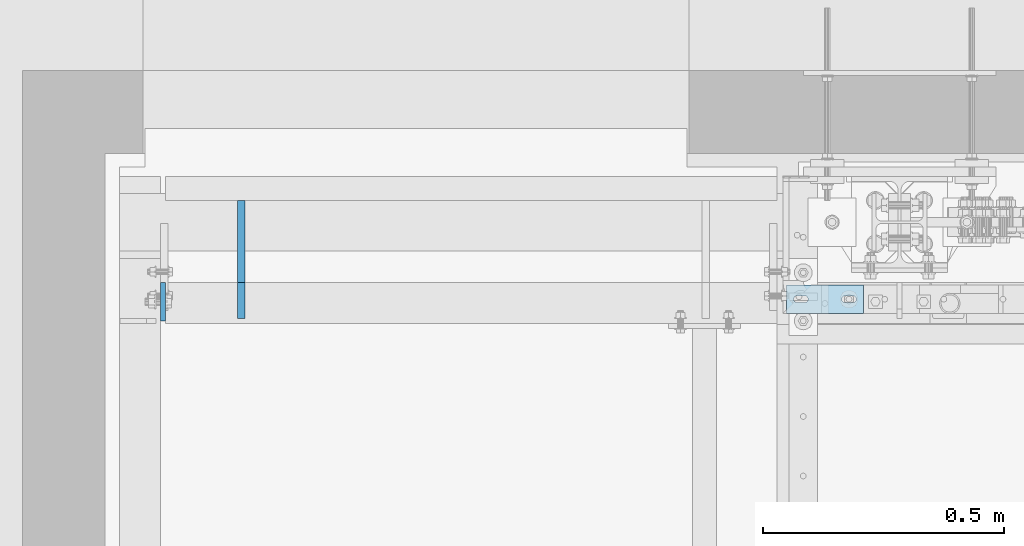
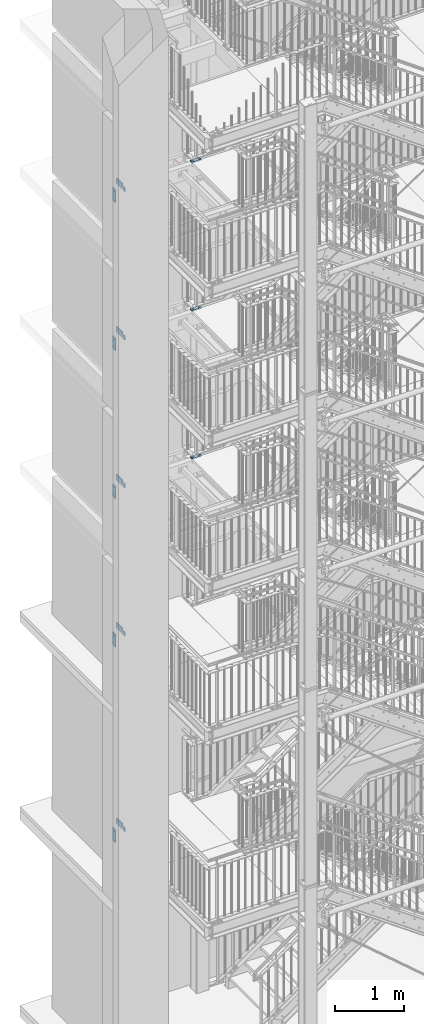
# One storey, part 184 of 831: 13 plates, 31 openings.
"""IFC2X3 building model written with IfcOpenShell, lengths in millimetres."""

from ifc_helpers import new_model, entity, si_unit, converted_unit, point, frame, frame_2d, origin, origin_with_axes, origin_2d_with_axis, place, context, project, spatial, polyline, circle_curve, line_curve, trimmed, segment, composite_curve, circle, outline, extrude, material, layer, layer_set, element, save


model = new_model("IFC2X3")

# Units and contexts
model_context = context("Model", 3, precision=1e-09, world=origin_with_axes())
ifc_project = project(units=[si_unit("LENGTHUNIT", "METRE", prefix="MILLI"), si_unit("AREAUNIT", "SQUARE_METRE"), si_unit("VOLUMEUNIT", "CUBIC_METRE"), converted_unit("PLANEANGLEUNIT", "DEGREE", entity("IfcPlaneAngleMeasure", 0.01745329), si_unit("PLANEANGLEUNIT", "RADIAN"), dimensions=[0, 0, 0, 0, 0, 0, 0])], contexts=[model_context])

# Site, building, storey
site_placement = place(None, origin_with_axes())
site = spatial("IfcSite", under=ifc_project, at=site_placement, Name="Site", CompositionType="ELEMENT")
building_placement = place(site_placement, origin_with_axes())
building = spatial("IfcBuilding", under=site, at=building_placement, Name="Struktur 1", CompositionType="ELEMENT")
storey_placement = place(building_placement, origin_with_axes())
storey = spatial("IfcBuildingStorey", under=building, at=storey_placement, Name="Default Storey", CompositionType="ELEMENT", Elevation=0.0)

# Plate, openings
ifc_material = material(Name="S235JR")
ifc_layer_1 = layer(ifc_material, 20.0)
ifc_layer_set_1 = layer_set([ifc_layer_1], Name="S235JR")
plate_1_placement = place(None, frame((4781.713402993, 7386.736971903, 9952.0), z_axis=(0.0, 0.0, 1.0), x_axis=(-1.0, 0.0, 0.0)))
plate_1 = element("IfcPlate", 1, at=plate_1_placement, inside=storey, material=ifc_layer_set_1, Name="Plate#500", ObjectType="Plate#500", context=model_context, shape_type="SweptSolid", body=[
    extrude(outline(polyline([(0.0, 0.0), (160.0, 0.0), (160.0, 60.0), (0.0, 60.0), (0.0, 0.0)])), origin_with_axes(), (0.0, 0.0, 1.0), 20.0),
])
opening_1_placement = place(plate_1_placement, frame((38.0, 37.001, 20.5), z_axis=(0.0, 0.0, 1.0), x_axis=(-1.0, 0.0, 0.0)))
element("IfcOpeningElement", 2, at=opening_1_placement, cuts=plate_1, ObjectType="Opening", context=model_context, shape_type="SweptSolid", body=[
    extrude(outline(composite_curve([segment(trimmed(line_curve((0.0, 0.0), (1.0, 0.0), 16.0), [point((0.0, 0.0))], [point((16.0, 0.0))], True, "CARTESIAN"), True, "CONTINUOUS"), segment(trimmed(circle_curve(frame_2d((16.0, 7.001), x_axis=(1.0, 0.0)), 7.001), [point((16.0, 0.0))], [point((16.0, 14.002))], True, "CARTESIAN"), True, "CONTINUOUS"), segment(trimmed(line_curve((16.0, 14.002), (-1.0, 0.0), 16.0), [point((16.0, 14.002))], [point((0.0, 14.002))], True, "CARTESIAN"), True, "CONTINUOUS"), segment(trimmed(circle_curve(frame_2d((0.0, 7.001), x_axis=(1.0, 0.0)), 7.001), [point((0.0, 14.002))], [point((0.0, 0.0))], True, "CARTESIAN"), True, "CONTINUOUS")], self_intersect=False)), origin(), (0.0, 0.0, -1.0), 21.0),
])
opening_2_placement = place(plate_1_placement, frame((138.0, 37.001, 20.5), z_axis=(0.0, 0.0, 1.0), x_axis=(-1.0, 0.0, 0.0)))
element("IfcOpeningElement", 3, at=opening_2_placement, cuts=plate_1, ObjectType="Opening", context=model_context, shape_type="SweptSolid", body=[
    extrude(outline(composite_curve([segment(trimmed(line_curve((0.0, 0.0), (1.0, 0.0), 16.0), [point((0.0, 0.0))], [point((16.0, 0.0))], True, "CARTESIAN"), True, "CONTINUOUS"), segment(trimmed(circle_curve(frame_2d((16.0, 7.001), x_axis=(1.0, 0.0)), 7.001), [point((16.0, 0.0))], [point((16.0, 14.002))], True, "CARTESIAN"), True, "CONTINUOUS"), segment(trimmed(line_curve((16.0, 14.002), (-1.0, 0.0), 16.0), [point((16.0, 14.002))], [point((0.0, 14.002))], True, "CARTESIAN"), True, "CONTINUOUS"), segment(trimmed(circle_curve(frame_2d((0.0, 7.001), x_axis=(1.0, 0.0)), 7.001), [point((0.0, 14.002))], [point((0.0, 0.0))], True, "CARTESIAN"), True, "CONTINUOUS")], self_intersect=False)), origin(), (0.0, 0.0, -1.0), 21.0),
])

plate_2_placement = place(None, frame((4781.713402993, 7386.736971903, 12579.0), z_axis=(0.0, 0.0, 1.0), x_axis=(-1.0, 0.0, 0.0)))
plate_2 = element("IfcPlate", 4, at=plate_2_placement, inside=storey, material=ifc_layer_set_1, Name="Plate#500", ObjectType="Plate#500", context=model_context, shape_type="SweptSolid", body=[
    extrude(outline(polyline([(0.0, 0.0), (160.0, 0.0), (160.0, 60.0), (0.0, 60.0), (0.0, 0.0)])), origin_with_axes(), (0.0, 0.0, 1.0), 20.0),
])
opening_3_placement = place(plate_2_placement, frame((38.0, 37.001, 20.5), z_axis=(0.0, 0.0, 1.0), x_axis=(-1.0, 0.0, 0.0)))
element("IfcOpeningElement", 5, at=opening_3_placement, cuts=plate_2, ObjectType="Opening", context=model_context, shape_type="SweptSolid", body=[
    extrude(outline(composite_curve([segment(trimmed(line_curve((0.0, 0.0), (1.0, 0.0), 16.0), [point((0.0, 0.0))], [point((16.0, 0.0))], True, "CARTESIAN"), True, "CONTINUOUS"), segment(trimmed(circle_curve(frame_2d((16.0, 7.001), x_axis=(1.0, 0.0)), 7.001), [point((16.0, 0.0))], [point((16.0, 14.002))], True, "CARTESIAN"), True, "CONTINUOUS"), segment(trimmed(line_curve((16.0, 14.002), (-1.0, 0.0), 16.0), [point((16.0, 14.002))], [point((0.0, 14.002))], True, "CARTESIAN"), True, "CONTINUOUS"), segment(trimmed(circle_curve(frame_2d((0.0, 7.001), x_axis=(1.0, 0.0)), 7.001), [point((0.0, 14.002))], [point((0.0, 0.0))], True, "CARTESIAN"), True, "CONTINUOUS")], self_intersect=False)), origin(), (0.0, 0.0, -1.0), 21.0),
])
opening_4_placement = place(plate_2_placement, frame((138.0, 37.001, 20.5), z_axis=(0.0, 0.0, 1.0), x_axis=(-1.0, 0.0, 0.0)))
element("IfcOpeningElement", 6, at=opening_4_placement, cuts=plate_2, ObjectType="Opening", context=model_context, shape_type="SweptSolid", body=[
    extrude(outline(composite_curve([segment(trimmed(line_curve((0.0, 0.0), (1.0, 0.0), 16.0), [point((0.0, 0.0))], [point((16.0, 0.0))], True, "CARTESIAN"), True, "CONTINUOUS"), segment(trimmed(circle_curve(frame_2d((16.0, 7.001), x_axis=(1.0, 0.0)), 7.001), [point((16.0, 0.0))], [point((16.0, 14.002))], True, "CARTESIAN"), True, "CONTINUOUS"), segment(trimmed(line_curve((16.0, 14.002), (-1.0, 0.0), 16.0), [point((16.0, 14.002))], [point((0.0, 14.002))], True, "CARTESIAN"), True, "CONTINUOUS"), segment(trimmed(circle_curve(frame_2d((0.0, 7.001), x_axis=(1.0, 0.0)), 7.001), [point((0.0, 14.002))], [point((0.0, 0.0))], True, "CARTESIAN"), True, "CONTINUOUS")], self_intersect=False)), origin(), (0.0, 0.0, -1.0), 21.0),
])

plate_3_placement = place(None, frame((4781.713402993, 7386.736971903, 15214.0), z_axis=(0.0, 0.0, 1.0), x_axis=(-1.0, 0.0, 0.0)))
plate_3 = element("IfcPlate", 7, at=plate_3_placement, inside=storey, material=ifc_layer_set_1, Name="Plate#500", ObjectType="Plate#500", context=model_context, shape_type="SweptSolid", body=[
    extrude(outline(polyline([(0.0, 0.0), (160.0, 0.0), (160.0, 60.0), (0.0, 60.0), (0.0, 0.0)])), origin_with_axes(), (0.0, 0.0, 1.0), 20.0),
])
opening_5_placement = place(plate_3_placement, frame((38.0, 37.001, 20.5), z_axis=(0.0, 0.0, 1.0), x_axis=(-1.0, 0.0, 0.0)))
element("IfcOpeningElement", 8, at=opening_5_placement, cuts=plate_3, ObjectType="Opening", context=model_context, shape_type="SweptSolid", body=[
    extrude(outline(composite_curve([segment(trimmed(line_curve((0.0, 0.0), (1.0, 0.0), 16.0), [point((0.0, 0.0))], [point((16.0, 0.0))], True, "CARTESIAN"), True, "CONTINUOUS"), segment(trimmed(circle_curve(frame_2d((16.0, 7.001), x_axis=(1.0, 0.0)), 7.001), [point((16.0, 0.0))], [point((16.0, 14.002))], True, "CARTESIAN"), True, "CONTINUOUS"), segment(trimmed(line_curve((16.0, 14.002), (-1.0, 0.0), 16.0), [point((16.0, 14.002))], [point((0.0, 14.002))], True, "CARTESIAN"), True, "CONTINUOUS"), segment(trimmed(circle_curve(frame_2d((0.0, 7.001), x_axis=(1.0, 0.0)), 7.001), [point((0.0, 14.002))], [point((0.0, 0.0))], True, "CARTESIAN"), True, "CONTINUOUS")], self_intersect=False)), origin(), (0.0, 0.0, -1.0), 21.0),
])
opening_6_placement = place(plate_3_placement, frame((138.0, 37.001, 20.5), z_axis=(0.0, 0.0, 1.0), x_axis=(-1.0, 0.0, 0.0)))
element("IfcOpeningElement", 9, at=opening_6_placement, cuts=plate_3, ObjectType="Opening", context=model_context, shape_type="SweptSolid", body=[
    extrude(outline(composite_curve([segment(trimmed(line_curve((0.0, 0.0), (1.0, 0.0), 16.0), [point((0.0, 0.0))], [point((16.0, 0.0))], True, "CARTESIAN"), True, "CONTINUOUS"), segment(trimmed(circle_curve(frame_2d((16.0, 7.001), x_axis=(1.0, 0.0)), 7.001), [point((16.0, 0.0))], [point((16.0, 14.002))], True, "CARTESIAN"), True, "CONTINUOUS"), segment(trimmed(line_curve((16.0, 14.002), (-1.0, 0.0), 16.0), [point((16.0, 14.002))], [point((0.0, 14.002))], True, "CARTESIAN"), True, "CONTINUOUS"), segment(trimmed(circle_curve(frame_2d((0.0, 7.001), x_axis=(1.0, 0.0)), 7.001), [point((0.0, 14.002))], [point((0.0, 0.0))], True, "CARTESIAN"), True, "CONTINUOUS")], self_intersect=False)), origin(), (0.0, 0.0, -1.0), 21.0),
])

# Plate, opening
ifc_layer_2 = layer(ifc_material, 15.0)
ifc_layer_set_2 = layer_set([ifc_layer_2], Name="S235JR")
plate_4_placement = place(None, frame((3481.713402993, 7439.236971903, 3797.0), z_axis=(-1.0, 0.0, 0.0), x_axis=(0.0, -1.0, 0.0)))
plate_4 = element("IfcPlate", 10, at=plate_4_placement, inside=storey, material=ifc_layer_set_2, Name="-", ObjectType="-", context=model_context, shape_type="SweptSolid", body=[
    extrude(outline(polyline([(-122.5, -50.0), (122.5, -50.0), (122.5, 50.0), (-122.5, 50.0), (-122.5, -50.0)])), origin_with_axes(), (0.0, 0.0, -1.0), 15.0),
])
opening_7_placement = place(plate_4_placement, frame((47.499, 29.999, 0.1), z_axis=(0.0, 0.0, 1.0), x_axis=(0.707106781, -0.707106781, 0.0)))
element("IfcOpeningElement", 11, at=opening_7_placement, cuts=plate_4, ObjectType="Opening", context=model_context, shape_type="SweptSolid", body=[
    extrude(outline(composite_curve([segment(trimmed(circle_curve(frame_2d((7.071067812, 7.071067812), x_axis=(1.0, 0.0)), 10.0), [point((0.0, 0.0))], [point((14.142135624, 0.0))], True, "CARTESIAN"), True, "CONTINUOUS"), segment(trimmed(line_curve((14.142135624, 0.0), (0.707106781, 0.707106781), 93.063804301), [point((14.142135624, 0.0))], [point((79.948182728, 65.806047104))], True, "CARTESIAN"), True, "CONTINUOUS"), segment(trimmed(circle_curve(frame_2d((72.877114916, 72.877114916), x_axis=(1.0, 0.0)), 10.0), [point((79.948182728, 65.806047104))], [point((79.948182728, 79.948182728))], True, "CARTESIAN"), True, "CONTINUOUS"), segment(trimmed(line_curve((79.948182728, 79.948182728), (-0.707106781, 0.707106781), 40.184858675), [point((79.948182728, 79.948182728))], [point((51.533196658, 108.363168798))], True, "CARTESIAN"), True, "CONTINUOUS"), segment(trimmed(circle_curve(frame_2d((44.462128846, 101.292100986), x_axis=(1.0, 0.0)), 10.0), [point((51.533196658, 108.363168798))], [point((37.391061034, 108.363168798))], True, "CARTESIAN"), True, "CONTINUOUS"), segment(trimmed(line_curve((37.391061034, 108.363168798), (-0.707106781, -0.707106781), 93.063804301), [point((37.391061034, 108.363168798))], [point((-28.41498607, 42.557121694))], True, "CARTESIAN"), True, "CONTINUOUS"), segment(trimmed(circle_curve(frame_2d((-21.343918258, 35.486053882), x_axis=(1.0, 0.0)), 10.0), [point((-28.41498607, 42.557121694))], [point((-28.41498607, 28.41498607))], True, "CARTESIAN"), True, "CONTINUOUS"), segment(trimmed(line_curve((-28.41498607, 28.41498607), (0.707106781, -0.707106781), 40.184858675), [point((-28.41498607, 28.41498607))], [point((0.0, 0.0))], True, "CARTESIAN"), True, "CONTINUOUS")], self_intersect=False)), origin(), (0.0, 0.0, -1.0), 15.2),
])

plate_5_placement = place(None, frame((3481.713402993, 7439.236971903, 7270.0), z_axis=(-1.0, 0.0, 0.0), x_axis=(0.0, -1.0, 0.0)))
plate_5 = element("IfcPlate", 12, at=plate_5_placement, inside=storey, material=ifc_layer_set_2, Name="-", ObjectType="-", context=model_context, shape_type="SweptSolid", body=[
    extrude(outline(polyline([(-122.5, -50.0), (122.5, -50.0), (122.5, 50.0), (-122.5, 50.0), (-122.5, -50.0)])), origin_with_axes(), (0.0, 0.0, -1.0), 15.0),
])
opening_8_placement = place(plate_5_placement, frame((47.499, 29.999, 0.1), z_axis=(0.0, 0.0, 1.0), x_axis=(0.707106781, -0.707106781, 0.0)))
element("IfcOpeningElement", 13, at=opening_8_placement, cuts=plate_5, ObjectType="Opening", context=model_context, shape_type="SweptSolid", body=[
    extrude(outline(composite_curve([segment(trimmed(circle_curve(frame_2d((7.071067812, 7.071067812), x_axis=(1.0, 0.0)), 10.0), [point((0.0, 0.0))], [point((14.142135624, 0.0))], True, "CARTESIAN"), True, "CONTINUOUS"), segment(trimmed(line_curve((14.142135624, 0.0), (0.707106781, 0.707106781), 93.063804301), [point((14.142135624, 0.0))], [point((79.948182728, 65.806047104))], True, "CARTESIAN"), True, "CONTINUOUS"), segment(trimmed(circle_curve(frame_2d((72.877114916, 72.877114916), x_axis=(1.0, 0.0)), 10.0), [point((79.948182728, 65.806047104))], [point((79.948182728, 79.948182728))], True, "CARTESIAN"), True, "CONTINUOUS"), segment(trimmed(line_curve((79.948182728, 79.948182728), (-0.707106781, 0.707106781), 40.184858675), [point((79.948182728, 79.948182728))], [point((51.533196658, 108.363168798))], True, "CARTESIAN"), True, "CONTINUOUS"), segment(trimmed(circle_curve(frame_2d((44.462128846, 101.292100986), x_axis=(1.0, 0.0)), 10.0), [point((51.533196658, 108.363168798))], [point((37.391061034, 108.363168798))], True, "CARTESIAN"), True, "CONTINUOUS"), segment(trimmed(line_curve((37.391061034, 108.363168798), (-0.707106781, -0.707106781), 93.063804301), [point((37.391061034, 108.363168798))], [point((-28.41498607, 42.557121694))], True, "CARTESIAN"), True, "CONTINUOUS"), segment(trimmed(circle_curve(frame_2d((-21.343918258, 35.486053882), x_axis=(1.0, 0.0)), 10.0), [point((-28.41498607, 42.557121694))], [point((-28.41498607, 28.41498607))], True, "CARTESIAN"), True, "CONTINUOUS"), segment(trimmed(line_curve((-28.41498607, 28.41498607), (0.707106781, -0.707106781), 40.184858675), [point((-28.41498607, 28.41498607))], [point((0.0, 0.0))], True, "CARTESIAN"), True, "CONTINUOUS")], self_intersect=False)), origin(), (0.0, 0.0, -1.0), 15.2),
])

plate_6_placement = place(None, frame((3481.713402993, 7439.236971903, 9902.0), z_axis=(-1.0, 0.0, 0.0), x_axis=(0.0, -1.0, 0.0)))
plate_6 = element("IfcPlate", 14, at=plate_6_placement, inside=storey, material=ifc_layer_set_2, Name="-", ObjectType="-", context=model_context, shape_type="SweptSolid", body=[
    extrude(outline(polyline([(-122.5, -50.0), (122.5, -50.0), (122.5, 50.0), (-122.5, 50.0), (-122.5, -50.0)])), origin_with_axes(), (0.0, 0.0, -1.0), 15.0),
])
opening_9_placement = place(plate_6_placement, frame((47.499, 29.999, 0.1), z_axis=(0.0, 0.0, 1.0), x_axis=(0.707106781, -0.707106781, 0.0)))
element("IfcOpeningElement", 15, at=opening_9_placement, cuts=plate_6, ObjectType="Opening", context=model_context, shape_type="SweptSolid", body=[
    extrude(outline(composite_curve([segment(trimmed(circle_curve(frame_2d((7.071067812, 7.071067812), x_axis=(1.0, 0.0)), 10.0), [point((0.0, 0.0))], [point((14.142135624, 0.0))], True, "CARTESIAN"), True, "CONTINUOUS"), segment(trimmed(line_curve((14.142135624, 0.0), (0.707106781, 0.707106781), 93.063804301), [point((14.142135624, 0.0))], [point((79.948182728, 65.806047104))], True, "CARTESIAN"), True, "CONTINUOUS"), segment(trimmed(circle_curve(frame_2d((72.877114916, 72.877114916), x_axis=(1.0, 0.0)), 10.0), [point((79.948182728, 65.806047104))], [point((79.948182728, 79.948182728))], True, "CARTESIAN"), True, "CONTINUOUS"), segment(trimmed(line_curve((79.948182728, 79.948182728), (-0.707106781, 0.707106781), 40.184858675), [point((79.948182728, 79.948182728))], [point((51.533196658, 108.363168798))], True, "CARTESIAN"), True, "CONTINUOUS"), segment(trimmed(circle_curve(frame_2d((44.462128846, 101.292100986), x_axis=(1.0, 0.0)), 10.0), [point((51.533196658, 108.363168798))], [point((37.391061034, 108.363168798))], True, "CARTESIAN"), True, "CONTINUOUS"), segment(trimmed(line_curve((37.391061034, 108.363168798), (-0.707106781, -0.707106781), 93.063804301), [point((37.391061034, 108.363168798))], [point((-28.41498607, 42.557121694))], True, "CARTESIAN"), True, "CONTINUOUS"), segment(trimmed(circle_curve(frame_2d((-21.343918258, 35.486053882), x_axis=(1.0, 0.0)), 10.0), [point((-28.41498607, 42.557121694))], [point((-28.41498607, 28.41498607))], True, "CARTESIAN"), True, "CONTINUOUS"), segment(trimmed(line_curve((-28.41498607, 28.41498607), (0.707106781, -0.707106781), 40.184858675), [point((-28.41498607, 28.41498607))], [point((0.0, 0.0))], True, "CARTESIAN"), True, "CONTINUOUS")], self_intersect=False)), origin(), (0.0, 0.0, -1.0), 15.2),
])

plate_7_placement = place(None, frame((3481.713402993, 7439.236971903, 12529.0), z_axis=(-1.0, 0.0, 0.0), x_axis=(0.0, -1.0, 0.0)))
plate_7 = element("IfcPlate", 16, at=plate_7_placement, inside=storey, material=ifc_layer_set_2, Name="-", ObjectType="-", context=model_context, shape_type="SweptSolid", body=[
    extrude(outline(polyline([(-122.5, -50.0), (122.5, -50.0), (122.5, 50.0), (-122.5, 50.0), (-122.5, -50.0)])), origin_with_axes(), (0.0, 0.0, -1.0), 15.0),
])
opening_10_placement = place(plate_7_placement, frame((47.499, 29.999, 0.1), z_axis=(0.0, 0.0, 1.0), x_axis=(0.707106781, -0.707106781, 0.0)))
element("IfcOpeningElement", 17, at=opening_10_placement, cuts=plate_7, ObjectType="Opening", context=model_context, shape_type="SweptSolid", body=[
    extrude(outline(composite_curve([segment(trimmed(circle_curve(frame_2d((7.071067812, 7.071067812), x_axis=(1.0, 0.0)), 10.0), [point((0.0, 0.0))], [point((14.142135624, 0.0))], True, "CARTESIAN"), True, "CONTINUOUS"), segment(trimmed(line_curve((14.142135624, 0.0), (0.707106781, 0.707106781), 93.063804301), [point((14.142135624, 0.0))], [point((79.948182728, 65.806047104))], True, "CARTESIAN"), True, "CONTINUOUS"), segment(trimmed(circle_curve(frame_2d((72.877114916, 72.877114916), x_axis=(1.0, 0.0)), 10.0), [point((79.948182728, 65.806047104))], [point((79.948182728, 79.948182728))], True, "CARTESIAN"), True, "CONTINUOUS"), segment(trimmed(line_curve((79.948182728, 79.948182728), (-0.707106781, 0.707106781), 40.184858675), [point((79.948182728, 79.948182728))], [point((51.533196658, 108.363168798))], True, "CARTESIAN"), True, "CONTINUOUS"), segment(trimmed(circle_curve(frame_2d((44.462128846, 101.292100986), x_axis=(1.0, 0.0)), 10.0), [point((51.533196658, 108.363168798))], [point((37.391061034, 108.363168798))], True, "CARTESIAN"), True, "CONTINUOUS"), segment(trimmed(line_curve((37.391061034, 108.363168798), (-0.707106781, -0.707106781), 93.063804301), [point((37.391061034, 108.363168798))], [point((-28.41498607, 42.557121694))], True, "CARTESIAN"), True, "CONTINUOUS"), segment(trimmed(circle_curve(frame_2d((-21.343918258, 35.486053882), x_axis=(1.0, 0.0)), 10.0), [point((-28.41498607, 42.557121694))], [point((-28.41498607, 28.41498607))], True, "CARTESIAN"), True, "CONTINUOUS"), segment(trimmed(line_curve((-28.41498607, 28.41498607), (0.707106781, -0.707106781), 40.184858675), [point((-28.41498607, 28.41498607))], [point((0.0, 0.0))], True, "CARTESIAN"), True, "CONTINUOUS")], self_intersect=False)), origin(), (0.0, 0.0, -1.0), 15.2),
])

plate_8_placement = place(None, frame((3481.713402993, 7439.236971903, 15164.0), z_axis=(-1.0, 0.0, 0.0), x_axis=(0.0, -1.0, 0.0)))
plate_8 = element("IfcPlate", 18, at=plate_8_placement, inside=storey, material=ifc_layer_set_2, Name="-", ObjectType="-", context=model_context, shape_type="SweptSolid", body=[
    extrude(outline(polyline([(-122.5, -50.0), (122.5, -50.0), (122.5, 50.0), (-122.5, 50.0), (-122.5, -50.0)])), origin_with_axes(), (0.0, 0.0, -1.0), 15.0),
])
opening_11_placement = place(plate_8_placement, frame((47.499, 29.999, 0.1), z_axis=(0.0, 0.0, 1.0), x_axis=(0.707106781, -0.707106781, 0.0)))
element("IfcOpeningElement", 19, at=opening_11_placement, cuts=plate_8, ObjectType="Opening", context=model_context, shape_type="SweptSolid", body=[
    extrude(outline(composite_curve([segment(trimmed(circle_curve(frame_2d((7.071067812, 7.071067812), x_axis=(1.0, 0.0)), 10.0), [point((0.0, 0.0))], [point((14.142135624, 0.0))], True, "CARTESIAN"), True, "CONTINUOUS"), segment(trimmed(line_curve((14.142135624, 0.0), (0.707106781, 0.707106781), 93.063804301), [point((14.142135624, 0.0))], [point((79.948182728, 65.806047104))], True, "CARTESIAN"), True, "CONTINUOUS"), segment(trimmed(circle_curve(frame_2d((72.877114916, 72.877114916), x_axis=(1.0, 0.0)), 10.0), [point((79.948182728, 65.806047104))], [point((79.948182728, 79.948182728))], True, "CARTESIAN"), True, "CONTINUOUS"), segment(trimmed(line_curve((79.948182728, 79.948182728), (-0.707106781, 0.707106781), 40.184858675), [point((79.948182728, 79.948182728))], [point((51.533196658, 108.363168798))], True, "CARTESIAN"), True, "CONTINUOUS"), segment(trimmed(circle_curve(frame_2d((44.462128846, 101.292100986), x_axis=(1.0, 0.0)), 10.0), [point((51.533196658, 108.363168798))], [point((37.391061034, 108.363168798))], True, "CARTESIAN"), True, "CONTINUOUS"), segment(trimmed(line_curve((37.391061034, 108.363168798), (-0.707106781, -0.707106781), 93.063804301), [point((37.391061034, 108.363168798))], [point((-28.41498607, 42.557121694))], True, "CARTESIAN"), True, "CONTINUOUS"), segment(trimmed(circle_curve(frame_2d((-21.343918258, 35.486053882), x_axis=(1.0, 0.0)), 10.0), [point((-28.41498607, 42.557121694))], [point((-28.41498607, 28.41498607))], True, "CARTESIAN"), True, "CONTINUOUS"), segment(trimmed(line_curve((-28.41498607, 28.41498607), (0.707106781, -0.707106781), 40.184858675), [point((-28.41498607, 28.41498607))], [point((0.0, 0.0))], True, "CARTESIAN"), True, "CONTINUOUS")], self_intersect=False)), origin(), (0.0, 0.0, -1.0), 15.2),
])

# Plate, openings
ifc_layer_3 = layer(ifc_material, 10.0)
ifc_layer_set_3 = layer_set([ifc_layer_3], Name="S235JR")
plate_9_placement = place(None, frame((3321.713402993, 7311.736971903, 3842.0), z_axis=(1.0, 0.0, 0.0), x_axis=(0.0, 0.0, -1.0)))
plate_9 = element("IfcPlate", 20, at=plate_9_placement, inside=storey, material=ifc_layer_set_3, Name="Endplate", ObjectType="Endplate", context=model_context, shape_type="SweptSolid", body=[
    extrude(outline(polyline([(0.0, 0.0), (230.0, 0.0), (230.0, 80.0), (0.0, 80.0), (0.0, 0.0)])), origin_with_axes(), (0.0, 0.0, 1.0), 10.0),
])
opening_12_placement = place(plate_9_placement, frame((209.0, 17.5, -0.5), z_axis=(0.0, 0.0, 1.0), x_axis=(1.0, 0.0, 0.0)))
element("IfcOpeningElement", 21, at=opening_12_placement, cuts=plate_9, ObjectType="Opening", context=model_context, shape_type="SweptSolid", body=[
    extrude(circle(Radius=6.001, at=origin_2d_with_axis()), origin(), (0.0, 0.0, 1.0), 11.0),
])
opening_13_placement = place(plate_9_placement, frame((21.0, 17.5, -0.5), z_axis=(0.0, 0.0, 1.0), x_axis=(1.0, 0.0, 0.0)))
element("IfcOpeningElement", 22, at=opening_13_placement, cuts=plate_9, ObjectType="Opening", context=model_context, shape_type="SweptSolid", body=[
    extrude(circle(Radius=6.001, at=origin_2d_with_axis()), origin(), (0.0, 0.0, 1.0), 11.0),
])
opening_14_placement = place(plate_9_placement, frame((64.001, 40.0, -0.5), z_axis=(0.0, 0.0, -1.0), x_axis=(-1.0, 0.0, 0.0)))
element("IfcOpeningElement", 23, at=opening_14_placement, cuts=plate_9, ObjectType="Opening", context=model_context, shape_type="SweptSolid", body=[
    extrude(circle(Radius=9.001, at=frame_2d((9.001, 0.0), x_axis=(1.0, 0.0))), origin(), (0.0, 0.0, -1.0), 11.0),
])
opening_15_placement = place(plate_9_placement, frame((184.001, 40.0, -0.5), z_axis=(0.0, 0.0, -1.0), x_axis=(-1.0, 0.0, 0.0)))
element("IfcOpeningElement", 24, at=opening_15_placement, cuts=plate_9, ObjectType="Opening", context=model_context, shape_type="SweptSolid", body=[
    extrude(circle(Radius=9.001, at=frame_2d((9.001, 0.0), x_axis=(1.0, 0.0))), origin(), (0.0, 0.0, -1.0), 11.0),
])

plate_10_placement = place(None, frame((3321.713402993, 7311.736971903, 7315.0), z_axis=(1.0, 0.0, 0.0), x_axis=(0.0, 0.0, -1.0)))
plate_10 = element("IfcPlate", 25, at=plate_10_placement, inside=storey, material=ifc_layer_set_3, Name="Endplate", ObjectType="Endplate", context=model_context, shape_type="SweptSolid", body=[
    extrude(outline(polyline([(0.0, 0.0), (230.0, 0.0), (230.0, 80.0), (0.0, 80.0), (0.0, 0.0)])), origin_with_axes(), (0.0, 0.0, 1.0), 10.0),
])
opening_16_placement = place(plate_10_placement, frame((209.0, 17.5, -0.5), z_axis=(0.0, 0.0, 1.0), x_axis=(1.0, 0.0, 0.0)))
element("IfcOpeningElement", 26, at=opening_16_placement, cuts=plate_10, ObjectType="Opening", context=model_context, shape_type="SweptSolid", body=[
    extrude(circle(Radius=6.001, at=origin_2d_with_axis()), origin(), (0.0, 0.0, 1.0), 11.0),
])
opening_17_placement = place(plate_10_placement, frame((21.0, 17.5, -0.5), z_axis=(0.0, 0.0, 1.0), x_axis=(1.0, 0.0, 0.0)))
element("IfcOpeningElement", 27, at=opening_17_placement, cuts=plate_10, ObjectType="Opening", context=model_context, shape_type="SweptSolid", body=[
    extrude(circle(Radius=6.001, at=origin_2d_with_axis()), origin(), (0.0, 0.0, 1.0), 11.0),
])
opening_18_placement = place(plate_10_placement, frame((64.001, 40.0, -0.5), z_axis=(0.0, 0.0, -1.0), x_axis=(-1.0, 0.0, 0.0)))
element("IfcOpeningElement", 28, at=opening_18_placement, cuts=plate_10, ObjectType="Opening", context=model_context, shape_type="SweptSolid", body=[
    extrude(circle(Radius=9.001, at=frame_2d((9.001, 0.0), x_axis=(1.0, 0.0))), origin(), (0.0, 0.0, -1.0), 11.0),
])
opening_19_placement = place(plate_10_placement, frame((184.001, 40.0, -0.5), z_axis=(0.0, 0.0, -1.0), x_axis=(-1.0, 0.0, 0.0)))
element("IfcOpeningElement", 29, at=opening_19_placement, cuts=plate_10, ObjectType="Opening", context=model_context, shape_type="SweptSolid", body=[
    extrude(circle(Radius=9.001, at=frame_2d((9.001, 0.0), x_axis=(1.0, 0.0))), origin(), (0.0, 0.0, -1.0), 11.0),
])

plate_11_placement = place(None, frame((3321.713402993, 7311.736971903, 9947.0), z_axis=(1.0, 0.0, 0.0), x_axis=(0.0, 0.0, -1.0)))
plate_11 = element("IfcPlate", 30, at=plate_11_placement, inside=storey, material=ifc_layer_set_3, Name="Endplate", ObjectType="Endplate", context=model_context, shape_type="SweptSolid", body=[
    extrude(outline(polyline([(0.0, 0.0), (230.0, 0.0), (230.0, 80.0), (0.0, 80.0), (0.0, 0.0)])), origin_with_axes(), (0.0, 0.0, 1.0), 10.0),
])
opening_20_placement = place(plate_11_placement, frame((209.0, 17.5, -0.5), z_axis=(0.0, 0.0, 1.0), x_axis=(1.0, 0.0, 0.0)))
element("IfcOpeningElement", 31, at=opening_20_placement, cuts=plate_11, ObjectType="Opening", context=model_context, shape_type="SweptSolid", body=[
    extrude(circle(Radius=6.001, at=origin_2d_with_axis()), origin(), (0.0, 0.0, 1.0), 11.0),
])
opening_21_placement = place(plate_11_placement, frame((21.0, 17.5, -0.5), z_axis=(0.0, 0.0, 1.0), x_axis=(1.0, 0.0, 0.0)))
element("IfcOpeningElement", 32, at=opening_21_placement, cuts=plate_11, ObjectType="Opening", context=model_context, shape_type="SweptSolid", body=[
    extrude(circle(Radius=6.001, at=origin_2d_with_axis()), origin(), (0.0, 0.0, 1.0), 11.0),
])
opening_22_placement = place(plate_11_placement, frame((64.001, 40.0, -0.5), z_axis=(0.0, 0.0, -1.0), x_axis=(-1.0, 0.0, 0.0)))
element("IfcOpeningElement", 33, at=opening_22_placement, cuts=plate_11, ObjectType="Opening", context=model_context, shape_type="SweptSolid", body=[
    extrude(circle(Radius=9.001, at=frame_2d((9.001, 0.0), x_axis=(1.0, 0.0))), origin(), (0.0, 0.0, -1.0), 11.0),
])
opening_23_placement = place(plate_11_placement, frame((184.001, 40.0, -0.5), z_axis=(0.0, 0.0, -1.0), x_axis=(-1.0, 0.0, 0.0)))
element("IfcOpeningElement", 34, at=opening_23_placement, cuts=plate_11, ObjectType="Opening", context=model_context, shape_type="SweptSolid", body=[
    extrude(circle(Radius=9.001, at=frame_2d((9.001, 0.0), x_axis=(1.0, 0.0))), origin(), (0.0, 0.0, -1.0), 11.0),
])

plate_12_placement = place(None, frame((3321.713402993, 7311.736971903, 12574.0), z_axis=(1.0, 0.0, 0.0), x_axis=(0.0, 0.0, -1.0)))
plate_12 = element("IfcPlate", 35, at=plate_12_placement, inside=storey, material=ifc_layer_set_3, Name="Endplate", ObjectType="Endplate", context=model_context, shape_type="SweptSolid", body=[
    extrude(outline(polyline([(0.0, 0.0), (230.0, 0.0), (230.0, 80.0), (0.0, 80.0), (0.0, 0.0)])), origin_with_axes(), (0.0, 0.0, 1.0), 10.0),
])
opening_24_placement = place(plate_12_placement, frame((209.0, 17.5, -0.5), z_axis=(0.0, 0.0, 1.0), x_axis=(1.0, 0.0, 0.0)))
element("IfcOpeningElement", 36, at=opening_24_placement, cuts=plate_12, ObjectType="Opening", context=model_context, shape_type="SweptSolid", body=[
    extrude(circle(Radius=6.001, at=origin_2d_with_axis()), origin(), (0.0, 0.0, 1.0), 11.0),
])
opening_25_placement = place(plate_12_placement, frame((21.0, 17.5, -0.5), z_axis=(0.0, 0.0, 1.0), x_axis=(1.0, 0.0, 0.0)))
element("IfcOpeningElement", 37, at=opening_25_placement, cuts=plate_12, ObjectType="Opening", context=model_context, shape_type="SweptSolid", body=[
    extrude(circle(Radius=6.001, at=origin_2d_with_axis()), origin(), (0.0, 0.0, 1.0), 11.0),
])
opening_26_placement = place(plate_12_placement, frame((64.001, 40.0, -0.5), z_axis=(0.0, 0.0, -1.0), x_axis=(-1.0, 0.0, 0.0)))
element("IfcOpeningElement", 38, at=opening_26_placement, cuts=plate_12, ObjectType="Opening", context=model_context, shape_type="SweptSolid", body=[
    extrude(circle(Radius=9.001, at=frame_2d((9.001, 0.0), x_axis=(1.0, 0.0))), origin(), (0.0, 0.0, -1.0), 11.0),
])
opening_27_placement = place(plate_12_placement, frame((184.001, 40.0, -0.5), z_axis=(0.0, 0.0, -1.0), x_axis=(-1.0, 0.0, 0.0)))
element("IfcOpeningElement", 39, at=opening_27_placement, cuts=plate_12, ObjectType="Opening", context=model_context, shape_type="SweptSolid", body=[
    extrude(circle(Radius=9.001, at=frame_2d((9.001, 0.0), x_axis=(1.0, 0.0))), origin(), (0.0, 0.0, -1.0), 11.0),
])

plate_13_placement = place(None, frame((3321.713402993, 7311.736971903, 15209.0), z_axis=(1.0, 0.0, 0.0), x_axis=(0.0, 0.0, -1.0)))
plate_13 = element("IfcPlate", 40, at=plate_13_placement, inside=storey, material=ifc_layer_set_3, Name="Endplate", ObjectType="Endplate", context=model_context, shape_type="SweptSolid", body=[
    extrude(outline(polyline([(0.0, 0.0), (230.0, 0.0), (230.0, 80.0), (0.0, 80.0), (0.0, 0.0)])), origin_with_axes(), (0.0, 0.0, 1.0), 10.0),
])
opening_28_placement = place(plate_13_placement, frame((209.0, 17.5, -0.5), z_axis=(0.0, 0.0, 1.0), x_axis=(1.0, 0.0, 0.0)))
element("IfcOpeningElement", 41, at=opening_28_placement, cuts=plate_13, ObjectType="Opening", context=model_context, shape_type="SweptSolid", body=[
    extrude(circle(Radius=6.001, at=origin_2d_with_axis()), origin(), (0.0, 0.0, 1.0), 11.0),
])
opening_29_placement = place(plate_13_placement, frame((21.0, 17.5, -0.5), z_axis=(0.0, 0.0, 1.0), x_axis=(1.0, 0.0, 0.0)))
element("IfcOpeningElement", 42, at=opening_29_placement, cuts=plate_13, ObjectType="Opening", context=model_context, shape_type="SweptSolid", body=[
    extrude(circle(Radius=6.001, at=origin_2d_with_axis()), origin(), (0.0, 0.0, 1.0), 11.0),
])
opening_30_placement = place(plate_13_placement, frame((64.001, 40.0, -0.5), z_axis=(0.0, 0.0, -1.0), x_axis=(-1.0, 0.0, 0.0)))
element("IfcOpeningElement", 43, at=opening_30_placement, cuts=plate_13, ObjectType="Opening", context=model_context, shape_type="SweptSolid", body=[
    extrude(circle(Radius=9.001, at=frame_2d((9.001, 0.0), x_axis=(1.0, 0.0))), origin(), (0.0, 0.0, -1.0), 11.0),
])
opening_31_placement = place(plate_13_placement, frame((184.001, 40.0, -0.5), z_axis=(0.0, 0.0, -1.0), x_axis=(-1.0, 0.0, 0.0)))
element("IfcOpeningElement", 44, at=opening_31_placement, cuts=plate_13, ObjectType="Opening", context=model_context, shape_type="SweptSolid", body=[
    extrude(circle(Radius=9.001, at=frame_2d((9.001, 0.0), x_axis=(1.0, 0.0))), origin(), (0.0, 0.0, -1.0), 11.0),
])

save(model, "model.ifc")
